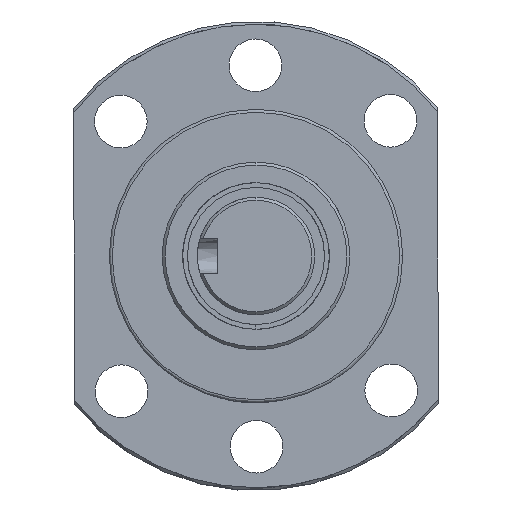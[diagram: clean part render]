
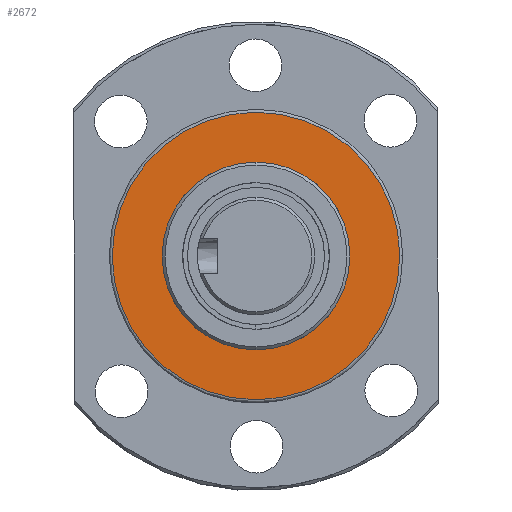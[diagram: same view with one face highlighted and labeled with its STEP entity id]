
A CAD part, left-side view. The second image highlights one B-rep face of the part: STEP entity #2672.
In plain terms, the highlighted planar face has unit normal (-1, 0, 0).
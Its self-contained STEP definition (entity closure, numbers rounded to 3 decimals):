
#690 = CARTESIAN_POINT ( 'NONE',  ( -99.893, -24.5, 0. ) ) ;
#1462 = FACE_BOUND ( 'NONE', #5173, .T. ) ;
#1639 = CARTESIAN_POINT ( 'NONE',  ( -99.893, 0., 0. ) ) ;
#2218 = EDGE_LOOP ( 'NONE', ( #13551, #14072 ) ) ;
#2399 = CARTESIAN_POINT ( 'NONE',  ( -99.893, 16., 0. ) ) ;
#2672 = ADVANCED_FACE ( 'NONE', ( #1462, #5504 ), #15890, .T. ) ;
#2753 = CARTESIAN_POINT ( 'NONE',  ( -99.893, 0., 0. ) ) ;
#2874 = ORIENTED_EDGE ( 'NONE', *, *, #5586, .F. ) ;
#4233 = DIRECTION ( 'NONE',  ( 0., 1., 0. ) ) ;
#4254 = DIRECTION ( 'NONE',  ( 0., -1., 0. ) ) ;
#4431 = CARTESIAN_POINT ( 'NONE',  ( -99.893, -16., 0. ) ) ;
#4470 = CIRCLE ( 'NONE', #6602, 24.5 ) ;
#5165 = CARTESIAN_POINT ( 'NONE',  ( -99.893, 24.5, 0. ) ) ;
#5173 = EDGE_LOOP ( 'NONE', ( #2874, #10545 ) ) ;
#5504 = FACE_OUTER_BOUND ( 'NONE', #2218, .T. ) ;
#5586 = EDGE_CURVE ( 'NONE', #15882, #16199, #10981, .T. ) ;
#5588 = DIRECTION ( 'NONE',  ( -1., 0., 0. ) ) ;
#5760 = AXIS2_PLACEMENT_3D ( 'NONE', #2753, #16013, #9535 ) ;
#5884 = DIRECTION ( 'NONE',  ( -1., 0., 0. ) ) ;
#6375 = AXIS2_PLACEMENT_3D ( 'NONE', #14819, #5884, #8428 ) ;
#6602 = AXIS2_PLACEMENT_3D ( 'NONE', #1639, #13456, #4254 ) ;
#6629 = EDGE_CURVE ( 'NONE', #16199, #15882, #6930, .T. ) ;
#6930 = CIRCLE ( 'NONE', #10732, 16. ) ;
#6934 = EDGE_CURVE ( 'NONE', #8462, #7164, #4470, .T. ) ;
#6965 = DIRECTION ( 'NONE',  ( 0., -1., 0. ) ) ;
#6970 = CARTESIAN_POINT ( 'NONE',  ( -99.893, 0., 0. ) ) ;
#7164 = VERTEX_POINT ( 'NONE', #690 ) ;
#8257 = AXIS2_PLACEMENT_3D ( 'NONE', #6970, #5588, #4233 ) ;
#8307 = CARTESIAN_POINT ( 'NONE',  ( -99.893, 0., 0. ) ) ;
#8428 = DIRECTION ( 'NONE',  ( 0., -1., 0. ) ) ;
#8462 = VERTEX_POINT ( 'NONE', #5165 ) ;
#9535 = DIRECTION ( 'NONE',  ( 0., -1., 0. ) ) ;
#10545 = ORIENTED_EDGE ( 'NONE', *, *, #6629, .F. ) ;
#10732 = AXIS2_PLACEMENT_3D ( 'NONE', #8307, #14776, #6965 ) ;
#10943 = CIRCLE ( 'NONE', #5760, 24.5 ) ;
#10981 = CIRCLE ( 'NONE', #6375, 16. ) ;
#13456 = DIRECTION ( 'NONE',  ( 1., 0., 0. ) ) ;
#13551 = ORIENTED_EDGE ( 'NONE', *, *, #15775, .F. ) ;
#14072 = ORIENTED_EDGE ( 'NONE', *, *, #6934, .F. ) ;
#14776 = DIRECTION ( 'NONE',  ( -1., 0., 0. ) ) ;
#14819 = CARTESIAN_POINT ( 'NONE',  ( -99.893, 0., 0. ) ) ;
#15775 = EDGE_CURVE ( 'NONE', #7164, #8462, #10943, .T. ) ;
#15882 = VERTEX_POINT ( 'NONE', #4431 ) ;
#15890 = PLANE ( 'NONE',  #8257 ) ;
#16013 = DIRECTION ( 'NONE',  ( 1., 0., 0. ) ) ;
#16199 = VERTEX_POINT ( 'NONE', #2399 ) ;
